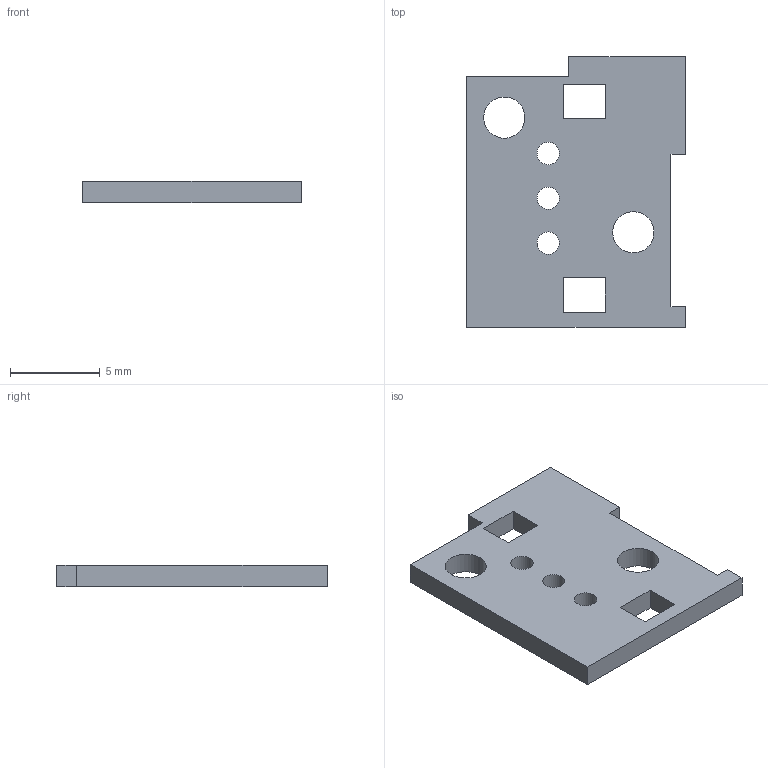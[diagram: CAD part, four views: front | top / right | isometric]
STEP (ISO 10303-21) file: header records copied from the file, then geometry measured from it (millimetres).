
FILE_DESCRIPTION(('Open CASCADE Model'),'2;1');
FILE_NAME('Open CASCADE Shape Model','2026-10-17T01:37:18',('Author'),( 'Open CASCADE'),'Open CASCADE STEP processor 7.9','Open CASCADE 7.9' ,'Unknown');
FILE_SCHEMA(('AUTOMOTIVE_DESIGN { 1 0 10303 214 1 1 1 1 }'));
Length unit declared in the file: millimetre
Products named in the file (1): Open CASCADE STEP translator 7.9 14
Bounding box: 12.2 x 15.1 x 1.2 mm (x, y, z)
Volume: 180 mm3; surface area: 419.5 mm2
Topology: 1 solids, 1 shells, 25 faces, 69 edges, 46 vertices
Faces by surface type: plane 20, cylinder 5
Full cylindrical faces by diameter (mm): 1.25 x3, 2.3 x2
Entity records: 1668 total; most frequent: CARTESIAN_POINT 339, DIRECTION 209, ORIENTED_EDGE 138, PCURVE 138, DEFINITIONAL_REPRESENTATION 138, LINE 127, VECTOR 127, EDGE_CURVE 69
